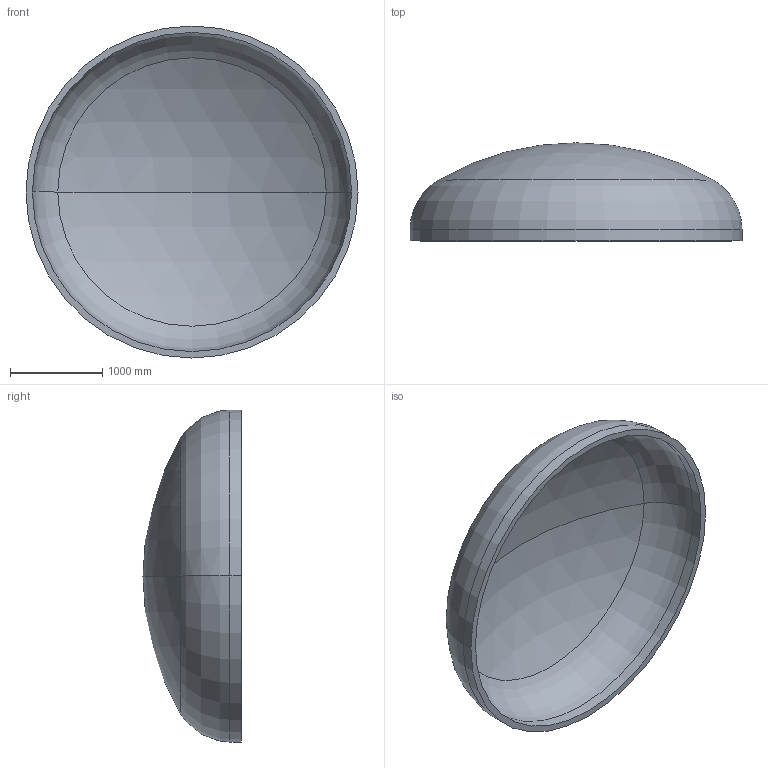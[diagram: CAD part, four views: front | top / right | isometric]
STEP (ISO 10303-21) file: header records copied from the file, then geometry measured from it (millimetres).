
FILE_DESCRIPTION (( 'STEP AP203' ), '1' );
FILE_NAME ('DIN 28013 Korbbogenform_-_Boden DIN 28013 - 3600 x 120 - I - s=70.step', '2016-07-01T20:38:19', ( '' ), ( '' ), 'SwSTEP 2.0', 'SolidWorks 2013', '' );
FILE_SCHEMA (( 'CONFIG_CONTROL_DESIGN' ));
Length unit declared in the file: millimetre
Products named in the file (1): DIN 28013 Korbbogenform_-_Boden DIN 28013 - 3600 x 120 - I - s=70
Bounding box: 3600 x 1063.76 x 3600 mm (x, y, z)
Volume: 1055231338.4 mm3; surface area: 30936006.4 mm2
Topology: 1 solids, 1 shells, 13 faces, 24 edges, 14 vertices
Faces by surface type: torus 4, cylinder 4, sphere 4, plane 1
Entity records: 407 total; most frequent: DIRECTION 72, CARTESIAN_POINT 52, ORIENTED_EDGE 48, AXIS2_PLACEMENT_3D 34, EDGE_CURVE 24, CIRCLE 20, VERTEX_POINT 14, EDGE_LOOP 14
